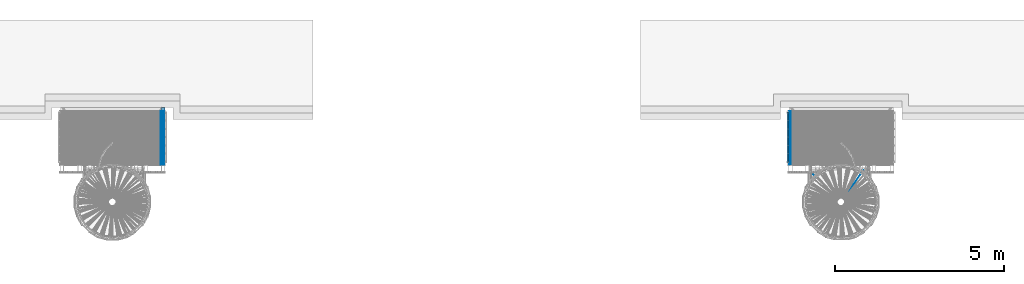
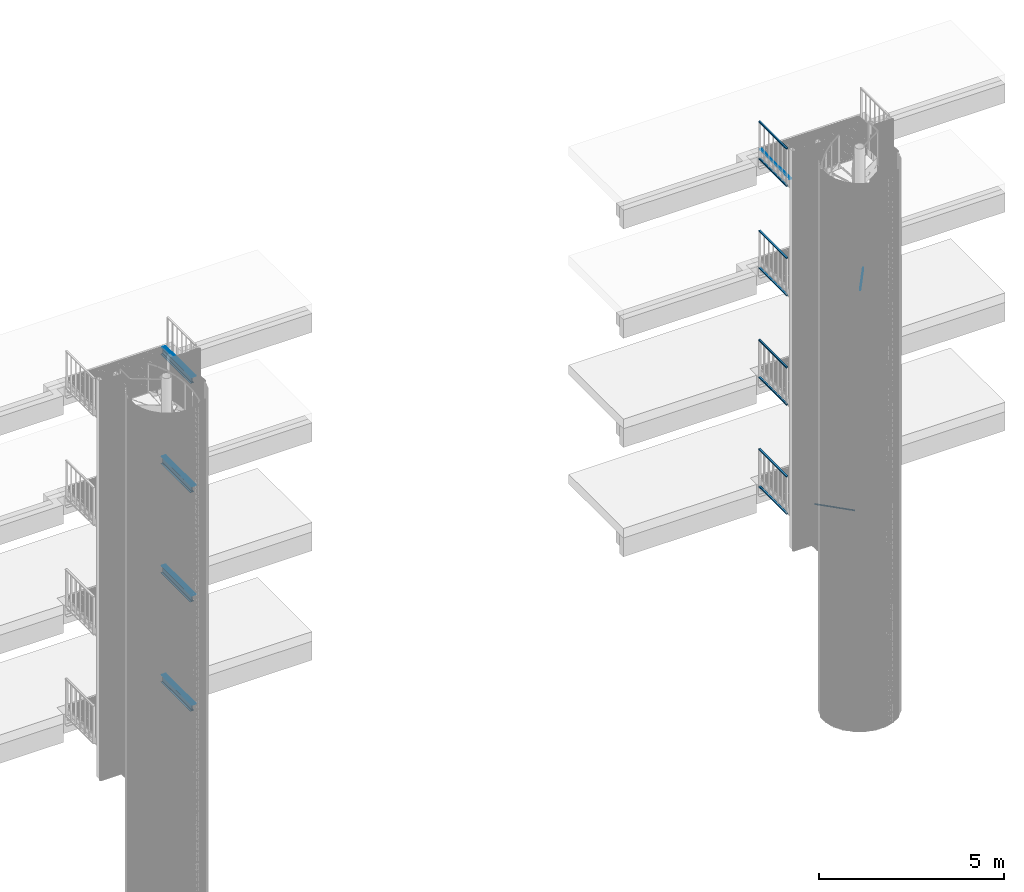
# One storey, part 90 of 1183: 45 beams, 19 elements without a shape of their own.
"""IFC2X3 building model written with IfcOpenShell, lengths in millimetres."""

from ifc_helpers import new_model, si_unit, frame, origin_with_axes, origin_2d_with_axis, place, context, subcontext, project, spatial, polyline, rectangle, hollow_rectangle, i_section, outline, extrude, boolean, material, type_object, element, aggregate, save


model = new_model("IFC2X3")

# Units and contexts
model_context = context("Model", 3, precision=1e-05, world=origin_with_axes())
body_context = subcontext(model_context, "Body", "Model", "MODEL_VIEW")
ifc_project = project(units=[si_unit("LENGTHUNIT", "METRE", prefix="MILLI"), si_unit("AREAUNIT", "SQUARE_METRE"), si_unit("VOLUMEUNIT", "CUBIC_METRE"), si_unit("MASSUNIT", "GRAM", prefix="KILO"), si_unit("TIMEUNIT", "SECOND"), si_unit("PLANEANGLEUNIT", "RADIAN"), si_unit("SOLIDANGLEUNIT", "STERADIAN"), si_unit("THERMODYNAMICTEMPERATUREUNIT", "DEGREE_CELSIUS"), si_unit("LUMINOUSINTENSITYUNIT", "LUMEN")], contexts=[model_context])

# Site, building, storey
site_placement = place(None, origin_with_axes())
site = spatial("IfcSite", under=ifc_project, at=site_placement, Name="Undefined", CompositionType="ELEMENT")
building_placement = place(site_placement, origin_with_axes())
building = spatial("IfcBuilding", under=site, at=building_placement, Name="Undefined", CompositionType="ELEMENT")
storey_placement = place(building_placement, origin_with_axes())
storey = spatial("IfcBuildingStorey", under=building, at=storey_placement, Name="Undefined", CompositionType="ELEMENT", Elevation=0.0)

# Assembly, beams
assembly_1_placement = place(storey_placement, origin_with_axes())
assembly_1 = element("IfcElementAssembly", 1, at=assembly_1_placement, inside=storey, Name="BORDURE", AssemblyPlace="NOTDEFINED", PredefinedType="NOTDEFINED")
ifc_material = material(Name="STEEL/S235JR")
beam_type_1 = type_object("IfcBeamType", Name="PL2*10", PredefinedType="NOTDEFINED")
beam_1_placement = place(assembly_1_placement, frame((1425.07542471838, 1102.00933287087, 17285.0), z_axis=(0.0, 0.0, 1.0), x_axis=(-4.50599999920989e-06, 0.999999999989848, 0.0)))
beam_1 = element("IfcBeam", 2, at=beam_1_placement, type_object=beam_type_1, material=ifc_material, Name="ENTRETOISE", context=body_context, shape_type="SweptSolid", body=[
    extrude(rectangle(XDim=2.0, YDim=10.0, at=origin_2d_with_axis()), frame((1596.0000000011, -1.35186458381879e-18, -7.27595761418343e-12), z_axis=(-1.0, 0.0, 0.0), x_axis=(0.0, -1.0, 0.0)), (0.0, 0.0, 1.0), 1596.0),
])
beam_2_placement = place(assembly_1_placement, frame((1444.07542471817, 1102.00942638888, 17285.0), z_axis=(0.0, 0.0, 1.0), x_axis=(-4.50599999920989e-06, 0.999999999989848, 0.0)))
beam_2 = element("IfcBeam", 3, at=beam_2_placement, type_object=beam_type_1, material=ifc_material, Name="ENTRETOISE", context=body_context, shape_type="SweptSolid", body=[
    extrude(rectangle(XDim=2.0, YDim=10.0, at=origin_2d_with_axis()), frame((1596.0000000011, -1.35186458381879e-18, -7.27595761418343e-12), z_axis=(-1.0, 0.0, 0.0), x_axis=(0.0, -1.0, 0.0)), (0.0, 0.0, 1.0), 1596.0),
])
beam_3_placement = place(assembly_1_placement, frame((1463.07542471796, 1102.00951990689, 17285.0), z_axis=(0.0, 0.0, 1.0), x_axis=(-4.50599999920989e-06, 0.999999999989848, 0.0)))
beam_3 = element("IfcBeam", 4, at=beam_3_placement, type_object=beam_type_1, material=ifc_material, Name="ENTRETOISE", context=body_context, shape_type="SweptSolid", body=[
    extrude(rectangle(XDim=2.0, YDim=10.0, at=origin_2d_with_axis()), frame((1596.0000000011, -1.35186458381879e-18, -7.27595761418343e-12), z_axis=(-1.0, 0.0, 0.0), x_axis=(0.0, -1.0, 0.0)), (0.0, 0.0, 1.0), 1596.0),
])
beam_4_placement = place(assembly_1_placement, frame((1482.07542471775, 1102.0096134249, 17285.0), z_axis=(0.0, 0.0, 1.0), x_axis=(-4.50599999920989e-06, 0.999999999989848, 0.0)))
beam_4 = element("IfcBeam", 5, at=beam_4_placement, type_object=beam_type_1, material=ifc_material, Name="ENTRETOISE", context=body_context, shape_type="SweptSolid", body=[
    extrude(rectangle(XDim=2.0, YDim=10.0, at=origin_2d_with_axis()), frame((1596.0000000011, -1.35186458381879e-18, -7.27595761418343e-12), z_axis=(-1.0, 0.0, 0.0), x_axis=(0.0, -1.0, 0.0)), (0.0, 0.0, 1.0), 1596.0),
])
beam_5_placement = place(assembly_1_placement, frame((1501.07542471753, 1102.00970694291, 17285.0), z_axis=(0.0, 0.0, 1.0), x_axis=(-4.50599999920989e-06, 0.999999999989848, 0.0)))
beam_5 = element("IfcBeam", 6, at=beam_5_placement, type_object=beam_type_1, material=ifc_material, Name="ENTRETOISE", context=body_context, shape_type="SweptSolid", body=[
    extrude(rectangle(XDim=2.0, YDim=10.0, at=origin_2d_with_axis()), frame((1596.0000000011, -1.35186458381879e-18, -7.27595761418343e-12), z_axis=(-1.0, 0.0, 0.0), x_axis=(0.0, -1.0, 0.0)), (0.0, 0.0, 1.0), 1596.0),
])
beam_6_placement = place(assembly_1_placement, frame((1520.07542471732, 1102.00980046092, 17285.0), z_axis=(0.0, 0.0, 1.0), x_axis=(-4.50599999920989e-06, 0.999999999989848, 0.0)))
beam_6 = element("IfcBeam", 7, at=beam_6_placement, type_object=beam_type_1, material=ifc_material, Name="ENTRETOISE", context=body_context, shape_type="SweptSolid", body=[
    extrude(rectangle(XDim=2.0, YDim=10.0, at=origin_2d_with_axis()), frame((1596.0000000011, -1.35186458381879e-18, -7.27595761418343e-12), z_axis=(-1.0, 0.0, 0.0), x_axis=(0.0, -1.0, 0.0)), (0.0, 0.0, 1.0), 1596.0),
])
beam_7_placement = place(assembly_1_placement, frame((1539.07542471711, 1102.00989397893, 17285.0), z_axis=(0.0, 0.0, 1.0), x_axis=(-4.50599999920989e-06, 0.999999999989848, 0.0)))
beam_7 = element("IfcBeam", 8, at=beam_7_placement, type_object=beam_type_1, material=ifc_material, Name="ENTRETOISE", context=body_context, shape_type="SweptSolid", body=[
    extrude(rectangle(XDim=2.0, YDim=10.0, at=origin_2d_with_axis()), frame((1596.0000000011, -1.35186458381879e-18, -7.27595761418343e-12), z_axis=(-1.0, 0.0, 0.0), x_axis=(0.0, -1.0, 0.0)), (0.0, 0.0, 1.0), 1596.0),
])
aggregate(assembly_1, [beam_1, beam_2, beam_3, beam_4, beam_5, beam_6, beam_7])

assembly_2_placement = place(storey_placement, origin_with_axes())
assembly_2 = element("IfcElementAssembly", 9, at=assembly_2_placement, inside=storey, Name="BORDURE", AssemblyPlace="NOTDEFINED", PredefinedType="NOTDEFINED")
beam_8_placement = place(assembly_2_placement, frame((1425.07542471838, 1102.00933287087, 13685.0), z_axis=(0.0, 0.0, 1.0), x_axis=(-4.50599999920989e-06, 0.999999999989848, 0.0)))
beam_8 = element("IfcBeam", 10, at=beam_8_placement, type_object=beam_type_1, material=ifc_material, Name="ENTRETOISE", context=body_context, shape_type="SweptSolid", body=[
    extrude(rectangle(XDim=2.0, YDim=10.0, at=origin_2d_with_axis()), frame((1596.0000000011, -1.35186458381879e-18, -7.27595761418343e-12), z_axis=(-1.0, 0.0, 0.0), x_axis=(0.0, -1.0, 0.0)), (0.0, 0.0, 1.0), 1596.0),
])
beam_9_placement = place(assembly_2_placement, frame((1444.07542471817, 1102.00942638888, 13685.0), z_axis=(0.0, 0.0, 1.0), x_axis=(-4.50599999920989e-06, 0.999999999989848, 0.0)))
beam_9 = element("IfcBeam", 11, at=beam_9_placement, type_object=beam_type_1, material=ifc_material, Name="ENTRETOISE", context=body_context, shape_type="SweptSolid", body=[
    extrude(rectangle(XDim=2.0, YDim=10.0, at=origin_2d_with_axis()), frame((1596.0000000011, -1.35186458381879e-18, -7.27595761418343e-12), z_axis=(-1.0, 0.0, 0.0), x_axis=(0.0, -1.0, 0.0)), (0.0, 0.0, 1.0), 1596.0),
])
beam_10_placement = place(assembly_2_placement, frame((1463.07542471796, 1102.00951990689, 13685.0), z_axis=(0.0, 0.0, 1.0), x_axis=(-4.50599999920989e-06, 0.999999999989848, 0.0)))
beam_10 = element("IfcBeam", 12, at=beam_10_placement, type_object=beam_type_1, material=ifc_material, Name="ENTRETOISE", context=body_context, shape_type="SweptSolid", body=[
    extrude(rectangle(XDim=2.0, YDim=10.0, at=origin_2d_with_axis()), frame((1596.0000000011, -1.35186458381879e-18, -7.27595761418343e-12), z_axis=(-1.0, 0.0, 0.0), x_axis=(0.0, -1.0, 0.0)), (0.0, 0.0, 1.0), 1596.0),
])
beam_11_placement = place(assembly_2_placement, frame((1482.07542471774, 1102.0096134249, 13685.0), z_axis=(0.0, 0.0, 1.0), x_axis=(-4.50599999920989e-06, 0.999999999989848, 0.0)))
beam_11 = element("IfcBeam", 13, at=beam_11_placement, type_object=beam_type_1, material=ifc_material, Name="ENTRETOISE", context=body_context, shape_type="SweptSolid", body=[
    extrude(rectangle(XDim=2.0, YDim=10.0, at=origin_2d_with_axis()), frame((1596.0000000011, -1.35186458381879e-18, -7.27595761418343e-12), z_axis=(-1.0, 0.0, 0.0), x_axis=(0.0, -1.0, 0.0)), (0.0, 0.0, 1.0), 1596.0),
])
beam_12_placement = place(assembly_2_placement, frame((1501.07542471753, 1102.00970694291, 13685.0), z_axis=(0.0, 0.0, 1.0), x_axis=(-4.50599999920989e-06, 0.999999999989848, 0.0)))
beam_12 = element("IfcBeam", 14, at=beam_12_placement, type_object=beam_type_1, material=ifc_material, Name="ENTRETOISE", context=body_context, shape_type="SweptSolid", body=[
    extrude(rectangle(XDim=2.0, YDim=10.0, at=origin_2d_with_axis()), frame((1596.0000000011, -1.35186458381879e-18, -7.27595761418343e-12), z_axis=(-1.0, 0.0, 0.0), x_axis=(0.0, -1.0, 0.0)), (0.0, 0.0, 1.0), 1596.0),
])
beam_13_placement = place(assembly_2_placement, frame((1520.07542471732, 1102.00980046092, 13685.0), z_axis=(0.0, 0.0, 1.0), x_axis=(-4.50599999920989e-06, 0.999999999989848, 0.0)))
beam_13 = element("IfcBeam", 15, at=beam_13_placement, type_object=beam_type_1, material=ifc_material, Name="ENTRETOISE", context=body_context, shape_type="SweptSolid", body=[
    extrude(rectangle(XDim=2.0, YDim=10.0, at=origin_2d_with_axis()), frame((1596.0000000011, -1.35186458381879e-18, -7.27595761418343e-12), z_axis=(-1.0, 0.0, 0.0), x_axis=(0.0, -1.0, 0.0)), (0.0, 0.0, 1.0), 1596.0),
])
beam_14_placement = place(assembly_2_placement, frame((1539.07542471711, 1102.00989397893, 13685.0), z_axis=(0.0, 0.0, 1.0), x_axis=(-4.50599999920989e-06, 0.999999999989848, 0.0)))
beam_14 = element("IfcBeam", 16, at=beam_14_placement, type_object=beam_type_1, material=ifc_material, Name="ENTRETOISE", context=body_context, shape_type="SweptSolid", body=[
    extrude(rectangle(XDim=2.0, YDim=10.0, at=origin_2d_with_axis()), frame((1596.0000000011, -1.35186458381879e-18, -7.27595761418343e-12), z_axis=(-1.0, 0.0, 0.0), x_axis=(0.0, -1.0, 0.0)), (0.0, 0.0, 1.0), 1596.0),
])
aggregate(assembly_2, [beam_8, beam_9, beam_10, beam_11, beam_12, beam_13, beam_14])

assembly_3_placement = place(storey_placement, origin_with_axes())
assembly_3 = element("IfcElementAssembly", 17, at=assembly_3_placement, inside=storey, Name="BORDURE", AssemblyPlace="NOTDEFINED", PredefinedType="NOTDEFINED")
beam_15_placement = place(assembly_3_placement, frame((1425.07542471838, 1102.00933287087, 10085.0), z_axis=(0.0, 0.0, 1.0), x_axis=(-4.50599999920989e-06, 0.999999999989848, 0.0)))
beam_15 = element("IfcBeam", 18, at=beam_15_placement, type_object=beam_type_1, material=ifc_material, Name="ENTRETOISE", context=body_context, shape_type="SweptSolid", body=[
    extrude(rectangle(XDim=2.0, YDim=10.0, at=origin_2d_with_axis()), frame((1596.0000000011, -1.35186458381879e-18, -7.27595761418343e-12), z_axis=(-1.0, 0.0, 0.0), x_axis=(0.0, -1.0, 0.0)), (0.0, 0.0, 1.0), 1596.0),
])
beam_16_placement = place(assembly_3_placement, frame((1444.07542471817, 1102.00942638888, 10085.0), z_axis=(0.0, 0.0, 1.0), x_axis=(-4.50599999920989e-06, 0.999999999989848, 0.0)))
beam_16 = element("IfcBeam", 19, at=beam_16_placement, type_object=beam_type_1, material=ifc_material, Name="ENTRETOISE", context=body_context, shape_type="SweptSolid", body=[
    extrude(rectangle(XDim=2.0, YDim=10.0, at=origin_2d_with_axis()), frame((1596.0000000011, -1.35186458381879e-18, -7.27595761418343e-12), z_axis=(-1.0, 0.0, 0.0), x_axis=(0.0, -1.0, 0.0)), (0.0, 0.0, 1.0), 1596.0),
])
beam_17_placement = place(assembly_3_placement, frame((1463.07542471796, 1102.00951990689, 10085.0), z_axis=(0.0, 0.0, 1.0), x_axis=(-4.50599999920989e-06, 0.999999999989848, 0.0)))
beam_17 = element("IfcBeam", 20, at=beam_17_placement, type_object=beam_type_1, material=ifc_material, Name="ENTRETOISE", context=body_context, shape_type="SweptSolid", body=[
    extrude(rectangle(XDim=2.0, YDim=10.0, at=origin_2d_with_axis()), frame((1596.0000000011, -1.35186458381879e-18, -7.27595761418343e-12), z_axis=(-1.0, 0.0, 0.0), x_axis=(0.0, -1.0, 0.0)), (0.0, 0.0, 1.0), 1596.0),
])
beam_18_placement = place(assembly_3_placement, frame((1482.07542471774, 1102.0096134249, 10085.0), z_axis=(0.0, 0.0, 1.0), x_axis=(-4.50599999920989e-06, 0.999999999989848, 0.0)))
beam_18 = element("IfcBeam", 21, at=beam_18_placement, type_object=beam_type_1, material=ifc_material, Name="ENTRETOISE", context=body_context, shape_type="SweptSolid", body=[
    extrude(rectangle(XDim=2.0, YDim=10.0, at=origin_2d_with_axis()), frame((1596.0000000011, -1.35186458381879e-18, -7.27595761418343e-12), z_axis=(-1.0, 0.0, 0.0), x_axis=(0.0, -1.0, 0.0)), (0.0, 0.0, 1.0), 1596.0),
])
beam_19_placement = place(assembly_3_placement, frame((1501.07542471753, 1102.00970694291, 10085.0), z_axis=(0.0, 0.0, 1.0), x_axis=(-4.50599999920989e-06, 0.999999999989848, 0.0)))
beam_19 = element("IfcBeam", 22, at=beam_19_placement, type_object=beam_type_1, material=ifc_material, Name="ENTRETOISE", context=body_context, shape_type="SweptSolid", body=[
    extrude(rectangle(XDim=2.0, YDim=10.0, at=origin_2d_with_axis()), frame((1596.0000000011, -1.35186458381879e-18, -7.27595761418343e-12), z_axis=(-1.0, 0.0, 0.0), x_axis=(0.0, -1.0, 0.0)), (0.0, 0.0, 1.0), 1596.0),
])
beam_20_placement = place(assembly_3_placement, frame((1520.07542471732, 1102.00980046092, 10085.0), z_axis=(0.0, 0.0, 1.0), x_axis=(-4.50599999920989e-06, 0.999999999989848, 0.0)))
beam_20 = element("IfcBeam", 23, at=beam_20_placement, type_object=beam_type_1, material=ifc_material, Name="ENTRETOISE", context=body_context, shape_type="SweptSolid", body=[
    extrude(rectangle(XDim=2.0, YDim=10.0, at=origin_2d_with_axis()), frame((1596.0000000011, -1.35186458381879e-18, -7.27595761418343e-12), z_axis=(-1.0, 0.0, 0.0), x_axis=(0.0, -1.0, 0.0)), (0.0, 0.0, 1.0), 1596.0),
])
beam_21_placement = place(assembly_3_placement, frame((1539.0754247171, 1102.00989397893, 10085.0), z_axis=(0.0, 0.0, 1.0), x_axis=(-4.50599999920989e-06, 0.999999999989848, 0.0)))
beam_21 = element("IfcBeam", 24, at=beam_21_placement, type_object=beam_type_1, material=ifc_material, Name="ENTRETOISE", context=body_context, shape_type="SweptSolid", body=[
    extrude(rectangle(XDim=2.0, YDim=10.0, at=origin_2d_with_axis()), frame((1596.0000000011, -1.35186458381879e-18, -7.27595761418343e-12), z_axis=(-1.0, 0.0, 0.0), x_axis=(0.0, -1.0, 0.0)), (0.0, 0.0, 1.0), 1596.0),
])
aggregate(assembly_3, [beam_15, beam_16, beam_17, beam_18, beam_19, beam_20, beam_21])

assembly_4_placement = place(storey_placement, origin_with_axes())
assembly_4 = element("IfcElementAssembly", 25, at=assembly_4_placement, inside=storey, Name="BORDURE", AssemblyPlace="NOTDEFINED", PredefinedType="NOTDEFINED")
beam_22_placement = place(assembly_4_placement, frame((1425.07542471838, 1102.00933287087, 6485.0), z_axis=(0.0, 0.0, 1.0), x_axis=(-4.50599999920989e-06, 0.999999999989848, 0.0)))
beam_22 = element("IfcBeam", 26, at=beam_22_placement, type_object=beam_type_1, material=ifc_material, Name="ENTRETOISE", context=body_context, shape_type="SweptSolid", body=[
    extrude(rectangle(XDim=2.0, YDim=10.0, at=origin_2d_with_axis()), frame((1596.0000000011, -1.35186458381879e-18, -7.27595761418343e-12), z_axis=(-1.0, 0.0, 0.0), x_axis=(0.0, -1.0, 0.0)), (0.0, 0.0, 1.0), 1596.0),
])
beam_23_placement = place(assembly_4_placement, frame((1444.07542471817, 1102.00942638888, 6485.0), z_axis=(0.0, 0.0, 1.0), x_axis=(-4.50599999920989e-06, 0.999999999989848, 0.0)))
beam_23 = element("IfcBeam", 27, at=beam_23_placement, type_object=beam_type_1, material=ifc_material, Name="ENTRETOISE", context=body_context, shape_type="SweptSolid", body=[
    extrude(rectangle(XDim=2.0, YDim=10.0, at=origin_2d_with_axis()), frame((1596.0000000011, -1.35186458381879e-18, -7.27595761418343e-12), z_axis=(-1.0, 0.0, 0.0), x_axis=(0.0, -1.0, 0.0)), (0.0, 0.0, 1.0), 1596.0),
])
beam_24_placement = place(assembly_4_placement, frame((1463.07542471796, 1102.00951990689, 6485.0), z_axis=(0.0, 0.0, 1.0), x_axis=(-4.50599999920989e-06, 0.999999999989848, 0.0)))
beam_24 = element("IfcBeam", 28, at=beam_24_placement, type_object=beam_type_1, material=ifc_material, Name="ENTRETOISE", context=body_context, shape_type="SweptSolid", body=[
    extrude(rectangle(XDim=2.0, YDim=10.0, at=origin_2d_with_axis()), frame((1596.0000000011, -1.35186458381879e-18, -7.27595761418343e-12), z_axis=(-1.0, 0.0, 0.0), x_axis=(0.0, -1.0, 0.0)), (0.0, 0.0, 1.0), 1596.0),
])
beam_25_placement = place(assembly_4_placement, frame((1482.07542471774, 1102.0096134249, 6485.0), z_axis=(0.0, 0.0, 1.0), x_axis=(-4.50599999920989e-06, 0.999999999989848, 0.0)))
beam_25 = element("IfcBeam", 29, at=beam_25_placement, type_object=beam_type_1, material=ifc_material, Name="ENTRETOISE", context=body_context, shape_type="SweptSolid", body=[
    extrude(rectangle(XDim=2.0, YDim=10.0, at=origin_2d_with_axis()), frame((1596.0000000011, -1.35186458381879e-18, -7.27595761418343e-12), z_axis=(-1.0, 0.0, 0.0), x_axis=(0.0, -1.0, 0.0)), (0.0, 0.0, 1.0), 1596.0),
])
beam_26_placement = place(assembly_4_placement, frame((1501.07542471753, 1102.00970694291, 6485.0), z_axis=(0.0, 0.0, 1.0), x_axis=(-4.50599999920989e-06, 0.999999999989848, 0.0)))
beam_26 = element("IfcBeam", 30, at=beam_26_placement, type_object=beam_type_1, material=ifc_material, Name="ENTRETOISE", context=body_context, shape_type="SweptSolid", body=[
    extrude(rectangle(XDim=2.0, YDim=10.0, at=origin_2d_with_axis()), frame((1596.0000000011, -1.35186458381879e-18, -7.27595761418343e-12), z_axis=(-1.0, 0.0, 0.0), x_axis=(0.0, -1.0, 0.0)), (0.0, 0.0, 1.0), 1596.0),
])
beam_27_placement = place(assembly_4_placement, frame((1520.07542471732, 1102.00980046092, 6485.0), z_axis=(0.0, 0.0, 1.0), x_axis=(-4.50599999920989e-06, 0.999999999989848, 0.0)))
beam_27 = element("IfcBeam", 31, at=beam_27_placement, type_object=beam_type_1, material=ifc_material, Name="ENTRETOISE", context=body_context, shape_type="SweptSolid", body=[
    extrude(rectangle(XDim=2.0, YDim=10.0, at=origin_2d_with_axis()), frame((1596.0000000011, -1.35186458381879e-18, -7.27595761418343e-12), z_axis=(-1.0, 0.0, 0.0), x_axis=(0.0, -1.0, 0.0)), (0.0, 0.0, 1.0), 1596.0),
])
beam_28_placement = place(assembly_4_placement, frame((1539.0754247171, 1102.00989397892, 6485.0), z_axis=(0.0, 0.0, 1.0), x_axis=(-4.50599999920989e-06, 0.999999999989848, 0.0)))
beam_28 = element("IfcBeam", 32, at=beam_28_placement, type_object=beam_type_1, material=ifc_material, Name="ENTRETOISE", context=body_context, shape_type="SweptSolid", body=[
    extrude(rectangle(XDim=2.0, YDim=10.0, at=origin_2d_with_axis()), frame((1596.0000000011, -1.35186458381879e-18, -7.27595761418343e-12), z_axis=(-1.0, 0.0, 0.0), x_axis=(0.0, -1.0, 0.0)), (0.0, 0.0, 1.0), 1596.0),
])
aggregate(assembly_4, [beam_22, beam_23, beam_24, beam_25, beam_26, beam_27, beam_28])

assembly_5_placement = place(storey_placement, origin_with_axes())
assembly_5 = element("IfcElementAssembly", 33, at=assembly_5_placement, inside=storey, Name="BORDURE", AssemblyPlace="NOTDEFINED", PredefinedType="NOTDEFINED")
beam_29_placement = place(assembly_5_placement, frame((20061.115424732, 1101.99474407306, 17285.0), z_axis=(0.0, 0.0, 1.0), x_axis=(-4.50599999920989e-06, 0.999999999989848, 0.0)))
beam_29 = element("IfcBeam", 34, at=beam_29_placement, type_object=beam_type_1, material=ifc_material, Name="ENTRETOISE", context=body_context, shape_type="SweptSolid", body=[
    extrude(rectangle(XDim=2.0, YDim=10.0, at=origin_2d_with_axis()), frame((1596.0000000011, -1.35186458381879e-18, -7.27595761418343e-12), z_axis=(-1.0, 0.0, 0.0), x_axis=(0.0, -1.0, 0.0)), (0.0, 0.0, 1.0), 1596.0),
])
beam_30_placement = place(assembly_5_placement, frame((20080.115424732, 1101.99483759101, 17285.0), z_axis=(0.0, 0.0, 1.0), x_axis=(-4.50599999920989e-06, 0.999999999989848, 0.0)))
beam_30 = element("IfcBeam", 35, at=beam_30_placement, type_object=beam_type_1, material=ifc_material, Name="ENTRETOISE", context=body_context, shape_type="SweptSolid", body=[
    extrude(rectangle(XDim=2.0, YDim=10.0, at=origin_2d_with_axis()), frame((1596.0000000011, -1.35186458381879e-18, -7.27595761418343e-12), z_axis=(-1.0, 0.0, 0.0), x_axis=(0.0, -1.0, 0.0)), (0.0, 0.0, 1.0), 1596.0),
])
beam_31_placement = place(assembly_5_placement, frame((20099.1154247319, 1101.99493110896, 17285.0), z_axis=(0.0, 0.0, 1.0), x_axis=(-4.50599999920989e-06, 0.999999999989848, 0.0)))
beam_31 = element("IfcBeam", 36, at=beam_31_placement, type_object=beam_type_1, material=ifc_material, Name="ENTRETOISE", context=body_context, shape_type="SweptSolid", body=[
    extrude(rectangle(XDim=2.0, YDim=10.0, at=origin_2d_with_axis()), frame((1596.0000000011, -1.35186458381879e-18, -7.27595761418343e-12), z_axis=(-1.0, 0.0, 0.0), x_axis=(0.0, -1.0, 0.0)), (0.0, 0.0, 1.0), 1596.0),
])
aggregate(assembly_5, [beam_29, beam_30, beam_31])

# Assembly, beam
assembly_6_placement = place(storey_placement, origin_with_axes())
assembly_6 = element("IfcElementAssembly", 37, at=assembly_6_placement, inside=storey, Name="RAILING", AssemblyPlace="NOTDEFINED", PredefinedType="NOTDEFINED")
beam_type_2 = type_object("IfcBeamType", Name="TUBE-R-60*40*3", PredefinedType="NOTDEFINED")
beam_32_placement = place(assembly_6_placement, frame((20019.9295654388, 1175.01007484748, 17020.0), z_axis=(0.999999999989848, -4.50599999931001e-06, 0.0), x_axis=(4.50599999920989e-06, 0.999999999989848, 0.0)))
beam_32 = element("IfcBeam", 38, at=beam_32_placement, type_object=beam_type_2, material=ifc_material, Name="RAILING", context=body_context, shape_type="SweptSolid", body=[
    extrude(hollow_rectangle(XDim=40.0, YDim=60.0, WallThickness=3.0, InnerFilletRadius=3.0, OuterFilletRadius=6.0, at=origin_2d_with_axis()), frame((1504.99832798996, 3.63797880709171e-12, -1.27478316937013e-18), z_axis=(-1.0, 0.0, 0.0), x_axis=(0.0, -1.0, 0.0)), (0.0, 0.0, 1.0), 1505.0),
])
aggregate(assembly_6, [beam_32])

assembly_7_placement = place(storey_placement, origin_with_axes())
assembly_7 = element("IfcElementAssembly", 39, at=assembly_7_placement, inside=storey, Name="RAILING", AssemblyPlace="NOTDEFINED", PredefinedType="NOTDEFINED")
beam_33_placement = place(assembly_7_placement, frame((20019.9295654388, 1175.01007484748, 18240.0), z_axis=(0.999999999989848, -4.50599999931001e-06, 0.0), x_axis=(4.50599999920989e-06, 0.999999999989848, 0.0)))
beam_33 = element("IfcBeam", 40, at=beam_33_placement, type_object=beam_type_2, material=ifc_material, Name="RAILING", context=body_context, shape_type="SweptSolid", body=[
    extrude(hollow_rectangle(XDim=40.0, YDim=60.0, WallThickness=3.0, InnerFilletRadius=3.0, OuterFilletRadius=6.0, at=origin_2d_with_axis()), frame((1504.99832798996, 3.63797880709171e-12, -1.27478316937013e-18), z_axis=(-1.0, 0.0, 0.0), x_axis=(0.0, -1.0, 0.0)), (0.0, 0.0, 1.0), 1505.0),
])
aggregate(assembly_7, [beam_33])

assembly_8_placement = place(storey_placement, origin_with_axes())
assembly_8 = element("IfcElementAssembly", 41, at=assembly_8_placement, inside=storey, Name="RAILING", AssemblyPlace="NOTDEFINED", PredefinedType="NOTDEFINED")
beam_34_placement = place(assembly_8_placement, frame((20019.9295654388, 1175.01007484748, 13420.0), z_axis=(0.999999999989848, -4.50599999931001e-06, 0.0), x_axis=(4.50599999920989e-06, 0.999999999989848, 0.0)))
beam_34 = element("IfcBeam", 42, at=beam_34_placement, type_object=beam_type_2, material=ifc_material, Name="RAILING", context=body_context, shape_type="SweptSolid", body=[
    extrude(hollow_rectangle(XDim=40.0, YDim=60.0, WallThickness=3.0, InnerFilletRadius=3.0, OuterFilletRadius=6.0, at=origin_2d_with_axis()), frame((1504.99832798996, 3.63797880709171e-12, -1.27478316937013e-18), z_axis=(-1.0, 0.0, 0.0), x_axis=(0.0, -1.0, 0.0)), (0.0, 0.0, 1.0), 1505.0),
])
aggregate(assembly_8, [beam_34])

assembly_9_placement = place(storey_placement, origin_with_axes())
assembly_9 = element("IfcElementAssembly", 43, at=assembly_9_placement, inside=storey, Name="RAILING", AssemblyPlace="NOTDEFINED", PredefinedType="NOTDEFINED")
beam_35_placement = place(assembly_9_placement, frame((20019.9295654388, 1175.01007484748, 14640.0), z_axis=(0.999999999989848, -4.50599999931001e-06, 0.0), x_axis=(4.50599999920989e-06, 0.999999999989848, 0.0)))
beam_35 = element("IfcBeam", 44, at=beam_35_placement, type_object=beam_type_2, material=ifc_material, Name="RAILING", context=body_context, shape_type="SweptSolid", body=[
    extrude(hollow_rectangle(XDim=40.0, YDim=60.0, WallThickness=3.0, InnerFilletRadius=3.0, OuterFilletRadius=6.0, at=origin_2d_with_axis()), frame((1504.99832798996, 3.63797880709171e-12, -1.27478316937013e-18), z_axis=(-1.0, 0.0, 0.0), x_axis=(0.0, -1.0, 0.0)), (0.0, 0.0, 1.0), 1505.0),
])
aggregate(assembly_9, [beam_35])

assembly_10_placement = place(storey_placement, origin_with_axes())
assembly_10 = element("IfcElementAssembly", 45, at=assembly_10_placement, inside=storey, Name="RAILING", AssemblyPlace="NOTDEFINED", PredefinedType="NOTDEFINED")
beam_36_placement = place(assembly_10_placement, frame((20019.9295654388, 1175.01007484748, 9820.0), z_axis=(0.999999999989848, -4.50599999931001e-06, 0.0), x_axis=(4.50599999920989e-06, 0.999999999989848, 0.0)))
beam_36 = element("IfcBeam", 46, at=beam_36_placement, type_object=beam_type_2, material=ifc_material, Name="RAILING", context=body_context, shape_type="SweptSolid", body=[
    extrude(hollow_rectangle(XDim=40.0, YDim=60.0, WallThickness=3.0, InnerFilletRadius=3.0, OuterFilletRadius=6.0, at=origin_2d_with_axis()), frame((1504.99832798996, 3.63797880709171e-12, -1.27478316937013e-18), z_axis=(-1.0, 0.0, 0.0), x_axis=(0.0, -1.0, 0.0)), (0.0, 0.0, 1.0), 1505.0),
])
aggregate(assembly_10, [beam_36])

assembly_11_placement = place(storey_placement, origin_with_axes())
assembly_11 = element("IfcElementAssembly", 47, at=assembly_11_placement, inside=storey, Name="RAILING", AssemblyPlace="NOTDEFINED", PredefinedType="NOTDEFINED")
beam_37_placement = place(assembly_11_placement, frame((20019.9295654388, 1175.01007484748, 11040.0), z_axis=(0.999999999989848, -4.50599999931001e-06, 0.0), x_axis=(4.50599999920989e-06, 0.999999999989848, 0.0)))
beam_37 = element("IfcBeam", 48, at=beam_37_placement, type_object=beam_type_2, material=ifc_material, Name="RAILING", context=body_context, shape_type="SweptSolid", body=[
    extrude(hollow_rectangle(XDim=40.0, YDim=60.0, WallThickness=3.0, InnerFilletRadius=3.0, OuterFilletRadius=6.0, at=origin_2d_with_axis()), frame((1504.99832798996, 3.63797880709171e-12, -1.27478316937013e-18), z_axis=(-1.0, 0.0, 0.0), x_axis=(0.0, -1.0, 0.0)), (0.0, 0.0, 1.0), 1505.0),
])
aggregate(assembly_11, [beam_37])

assembly_12_placement = place(storey_placement, origin_with_axes())
assembly_12 = element("IfcElementAssembly", 49, at=assembly_12_placement, inside=storey, Name="RAILING", AssemblyPlace="NOTDEFINED", PredefinedType="NOTDEFINED")
beam_38_placement = place(assembly_12_placement, frame((20019.9295654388, 1175.01007484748, 6220.0), z_axis=(0.999999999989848, -4.50599999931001e-06, 0.0), x_axis=(4.50599999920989e-06, 0.999999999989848, 0.0)))
beam_38 = element("IfcBeam", 50, at=beam_38_placement, type_object=beam_type_2, material=ifc_material, Name="RAILING", context=body_context, shape_type="SweptSolid", body=[
    extrude(hollow_rectangle(XDim=40.0, YDim=60.0, WallThickness=3.0, InnerFilletRadius=3.0, OuterFilletRadius=6.0, at=origin_2d_with_axis()), frame((1504.99832798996, 3.63797880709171e-12, -1.27478316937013e-18), z_axis=(-1.0, 0.0, 0.0), x_axis=(0.0, -1.0, 0.0)), (0.0, 0.0, 1.0), 1505.0),
])
aggregate(assembly_12, [beam_38])

assembly_13_placement = place(storey_placement, origin_with_axes())
assembly_13 = element("IfcElementAssembly", 51, at=assembly_13_placement, inside=storey, Name="RAILING", AssemblyPlace="NOTDEFINED", PredefinedType="NOTDEFINED")
beam_39_placement = place(assembly_13_placement, frame((20019.9295654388, 1175.01007484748, 7440.0), z_axis=(0.999999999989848, -4.50599999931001e-06, 0.0), x_axis=(4.50599999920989e-06, 0.999999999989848, 0.0)))
beam_39 = element("IfcBeam", 52, at=beam_39_placement, type_object=beam_type_2, material=ifc_material, Name="RAILING", context=body_context, shape_type="SweptSolid", body=[
    extrude(hollow_rectangle(XDim=40.0, YDim=60.0, WallThickness=3.0, InnerFilletRadius=3.0, OuterFilletRadius=6.0, at=origin_2d_with_axis()), frame((1504.99832798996, 3.63797880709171e-12, -1.27478316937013e-18), z_axis=(-1.0, 0.0, 0.0), x_axis=(0.0, -1.0, 0.0)), (0.0, 0.0, 1.0), 1505.0),
])
aggregate(assembly_13, [beam_39])

assembly_14_placement = place(storey_placement, origin_with_axes())
assembly_14 = element("IfcElementAssembly", 53, at=assembly_14_placement, inside=storey, Name="POTEAU", AssemblyPlace="NOTDEFINED", PredefinedType="NOTDEFINED")
beam_type_3 = type_object("IfcBeamType", Name="PL10*40", PredefinedType="NOTDEFINED")
beam_40_placement = place(assembly_14_placement, frame((21651.6645409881, 66.3066495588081, 13666.0), z_axis=(0.0, 0.0, 1.0), x_axis=(0.566618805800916, 0.823980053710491, 0.0)))
beam_40 = element("IfcBeam", 54, at=beam_40_placement, type_object=beam_type_3, material=ifc_material, Name="RAIDISSEUR", context=body_context, shape_type="CSG", body=[
    boolean("DIFFERENCE", extrude(rectangle(XDim=10.0, YDim=40.0, at=origin_2d_with_axis()), frame((1068.32873394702, 0.0, 0.0), z_axis=(-1.0, 0.0, 0.0), x_axis=(0.0, -1.0, 0.0)), (0.0, 0.0, 1.0), 1068.33), extrude(outline(polyline([(0.0, 0.0), (30.5663019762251, -4.91127138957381e-11), (60.366242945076, 6.80164206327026), (87.9055294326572, 20.0638634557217), (111.803226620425, 39.1216410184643), (130.861004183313, 63.0193382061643), (144.123225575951, 90.5586246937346), (150.9248676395, 120.358565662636), (150.924867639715, 150.924867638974), (144.123225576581, 180.724808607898), (130.86100418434, 208.264095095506), (111.803226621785, 232.161792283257), (87.9055294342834, 251.219569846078), (60.3662429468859, 264.481791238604), (30.5663019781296, 271.283433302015), (1.90266291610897e-09, 271.28343330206), (-29.7999409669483, 264.481791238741), (-57.3392274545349, 251.219569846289), (-81.2369246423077, 232.161792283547), (-100.294702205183, 208.26409509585), (-113.556923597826, 180.724808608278), (-120.35856566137, 150.92486763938), (-120.358565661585, 120.358565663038), (-113.556923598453, 90.5586246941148), (-100.294702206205, 63.0193382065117), (-81.2369246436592, 39.1216410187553), (-57.3392274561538, 20.0638634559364), (-29.7999409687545, 6.80164206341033), (0.0, 0.0)])), frame((-215.454419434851, 41.4440632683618, -22.5), z_axis=(0.0, 0.0, 1.0), x_axis=(-0.157410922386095, -0.987533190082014, 0.0)), (0.0, 0.0, 1.0), 45.0)),
])
aggregate(assembly_14, [beam_40])

assembly_15_placement = place(storey_placement, origin_with_axes())
assembly_15 = element("IfcElementAssembly", 55, at=assembly_15_placement, inside=storey, Name="POTEAU", AssemblyPlace="NOTDEFINED", PredefinedType="NOTDEFINED")
beam_41_placement = place(assembly_15_placement, frame((21537.6046196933, 56.3295884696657, 6465.84000000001), z_axis=(0.0, 0.0, 1.0), x_axis=(-0.701441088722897, 0.712727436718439, 0.0)))
beam_41 = element("IfcBeam", 56, at=beam_41_placement, type_object=beam_type_3, material=ifc_material, Name="RAIDISSEUR", context=body_context, shape_type="CSG", body=[
    boolean("DIFFERENCE", extrude(rectangle(XDim=10.0, YDim=40.0, at=origin_2d_with_axis()), frame((1177.56285850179, 0.0, 0.0), z_axis=(-1.0, 0.0, 0.0), x_axis=(0.0, -1.0, 0.0)), (0.0, 0.0, 1.0), 1177.56), extrude(outline(polyline([(0.0, 0.0), (30.5663019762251, -4.91127138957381e-11), (60.366242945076, 6.80164206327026), (87.9055294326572, 20.0638634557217), (111.803226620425, 39.1216410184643), (130.861004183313, 63.0193382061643), (144.123225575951, 90.5586246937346), (150.9248676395, 120.358565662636), (150.924867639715, 150.924867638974), (144.123225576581, 180.724808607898), (130.86100418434, 208.264095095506), (111.803226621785, 232.161792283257), (87.9055294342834, 251.219569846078), (60.3662429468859, 264.481791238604), (30.5663019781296, 271.283433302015), (1.90266291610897e-09, 271.28343330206), (-29.7999409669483, 264.481791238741), (-57.3392274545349, 251.219569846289), (-81.2369246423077, 232.161792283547), (-100.294702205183, 208.26409509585), (-113.556923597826, 180.724808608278), (-120.35856566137, 150.92486763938), (-120.358565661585, 120.358565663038), (-113.556923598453, 90.5586246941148), (-100.294702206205, 63.0193382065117), (-81.2369246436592, 39.1216410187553), (-57.3392274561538, 20.0638634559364), (-29.7999409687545, 6.80164206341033), (0.0, 0.0)])), frame((-73.1031607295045, 131.112178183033, -22.4999999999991), z_axis=(0.0, 0.0, 1.0), x_axis=(-0.999458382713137, -0.0329080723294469, 0.0)), (0.0, 0.0, 1.0), 45.0)),
])
aggregate(assembly_15, [beam_41])

assembly_16_placement = place(storey_placement, origin_with_axes())
assembly_16 = element("IfcElementAssembly", 57, at=assembly_16_placement, inside=storey, AssemblyPlace="NOTDEFINED", PredefinedType="NOTDEFINED")
beam_type_4 = type_object("IfcBeamType", Name="IPE240", PredefinedType="NOTDEFINED")
beam_42_placement = place(assembly_16_placement, frame((1490.07043456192, 1195.00969459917, 17120.0), z_axis=(0.0, 0.0, 1.0), x_axis=(-4.50599999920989e-06, 0.999999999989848, 0.0)))
beam_42 = element("IfcBeam", 58, at=beam_42_placement, type_object=beam_type_4, material=ifc_material, Name="EXISTANTS", context=body_context, shape_type="SweptSolid", body=[
    extrude(i_section(OverallWidth=120.0, OverallDepth=240.0, WebThickness=6.199999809, FlangeThickness=9.800000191, FilletRadius=15.0, at=origin_2d_with_axis()), frame((1604.99832798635, 0.0, 3.63797880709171e-12), z_axis=(-1.0, 0.0, 0.0), x_axis=(0.0, -1.0, 0.0)), (0.0, 0.0, 1.0), 1605.0),
])
aggregate(assembly_16, [beam_42])

assembly_17_placement = place(storey_placement, origin_with_axes())
assembly_17 = element("IfcElementAssembly", 59, at=assembly_17_placement, inside=storey, AssemblyPlace="NOTDEFINED", PredefinedType="NOTDEFINED")
beam_43_placement = place(assembly_17_placement, frame((1490.07043456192, 1195.00969459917, 13520.0), z_axis=(0.0, 0.0, 1.0), x_axis=(-4.50599999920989e-06, 0.999999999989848, 0.0)))
beam_43 = element("IfcBeam", 60, at=beam_43_placement, type_object=beam_type_4, material=ifc_material, Name="EXISTANTS", context=body_context, shape_type="SweptSolid", body=[
    extrude(i_section(OverallWidth=120.0, OverallDepth=240.0, WebThickness=6.199999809, FlangeThickness=9.800000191, FilletRadius=15.0, at=origin_2d_with_axis()), frame((1604.99832798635, 0.0, 3.63797880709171e-12), z_axis=(-1.0, 0.0, 0.0), x_axis=(0.0, -1.0, 0.0)), (0.0, 0.0, 1.0), 1605.0),
])
aggregate(assembly_17, [beam_43])

assembly_18_placement = place(storey_placement, origin_with_axes())
assembly_18 = element("IfcElementAssembly", 61, at=assembly_18_placement, inside=storey, AssemblyPlace="NOTDEFINED", PredefinedType="NOTDEFINED")
beam_44_placement = place(assembly_18_placement, frame((1490.07043456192, 1195.00969459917, 9920.0), z_axis=(0.0, 0.0, 1.0), x_axis=(-4.50599999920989e-06, 0.999999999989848, 0.0)))
beam_44 = element("IfcBeam", 62, at=beam_44_placement, type_object=beam_type_4, material=ifc_material, Name="EXISTANTS", context=body_context, shape_type="SweptSolid", body=[
    extrude(i_section(OverallWidth=120.0, OverallDepth=240.0, WebThickness=6.199999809, FlangeThickness=9.800000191, FilletRadius=15.0, at=origin_2d_with_axis()), frame((1604.99832798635, 0.0, 3.63797880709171e-12), z_axis=(-1.0, 0.0, 0.0), x_axis=(0.0, -1.0, 0.0)), (0.0, 0.0, 1.0), 1605.0),
])
aggregate(assembly_18, [beam_44])

assembly_19_placement = place(storey_placement, origin_with_axes())
assembly_19 = element("IfcElementAssembly", 63, at=assembly_19_placement, inside=storey, AssemblyPlace="NOTDEFINED", PredefinedType="NOTDEFINED")
beam_45_placement = place(assembly_19_placement, frame((1490.07043456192, 1195.00969459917, 6320.0), z_axis=(0.0, 0.0, 1.0), x_axis=(-4.50599999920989e-06, 0.999999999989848, 0.0)))
beam_45 = element("IfcBeam", 64, at=beam_45_placement, type_object=beam_type_4, material=ifc_material, Name="EXISTANTS", context=body_context, shape_type="SweptSolid", body=[
    extrude(i_section(OverallWidth=120.0, OverallDepth=240.0, WebThickness=6.199999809, FlangeThickness=9.800000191, FilletRadius=15.0, at=origin_2d_with_axis()), frame((1604.99832798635, 0.0, 3.63797880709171e-12), z_axis=(-1.0, 0.0, 0.0), x_axis=(0.0, -1.0, 0.0)), (0.0, 0.0, 1.0), 1605.0),
])
aggregate(assembly_19, [beam_45])

save(model, "model.ifc")
